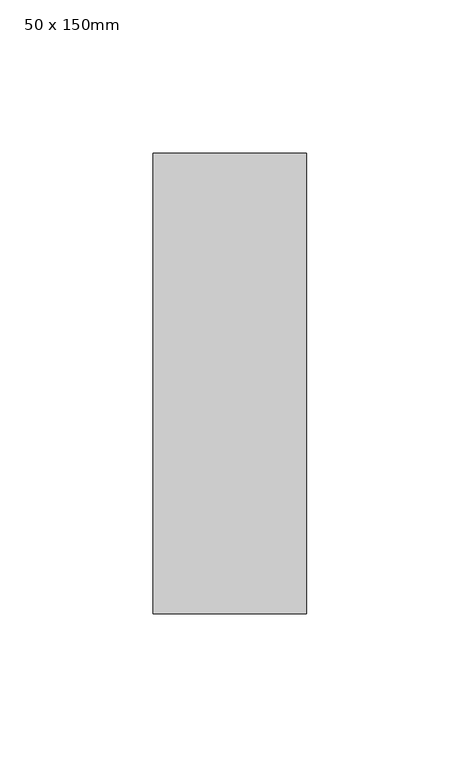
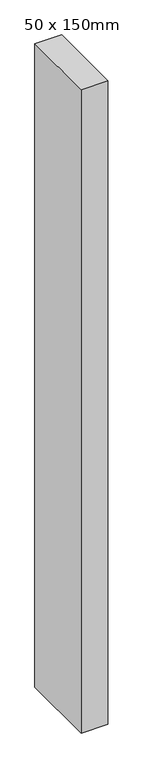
"""IFC4 building model written with IfcOpenShell, lengths in millimetres: member geometry, 矩形竖梃 : 50 x 150mm."""

import ifcopenshell
import ifcopenshell.guid

model = None  # the IFC model being written
_history = None  # IfcOwnerHistory: only IFC2X3 demands one
_inside = {}  # id of a spatial element -> (the spatial element, [elements in it])
_under = {}  # id of a project, library or spatial element -> (it, [spatial elements below it])
_declared = {}  # id of a project -> (the project, [libraries it declares])
_typed = {}  # id of a type object -> (the type object, [elements of that type])
_made_of = {}  # id of a material, layer set ... -> (it, [elements and type objects made of it])


def new_model(schema):
    """Start an empty IFC model of exactly this schema.

    Asked for "IFC4X3", IfcOpenShell would pick the latest addendum, in which some entities
    have other attributes; the version numbers below select the first issue.
    IFC2X3 requires an IfcOwnerHistory on every rooted entity: one is made here for all.
    """
    global model, _history
    if schema == "IFC4X3":
        model = ifcopenshell.file(schema_version=(4, 3, 0, 0))
    else:
        model = ifcopenshell.file(schema=schema)
    _inside.clear()
    _under.clear()
    _declared.clear()
    _typed.clear()
    _made_of.clear()
    _history = None
    if model.schema == "IFC2X3":
        org = make("IfcOrganization", Name="unknown")
        user = make(
            "IfcPersonAndOrganization",
            ThePerson=make("IfcPerson", FamilyName="unknown"),
            TheOrganization=org,
        )
        app = make(
            "IfcApplication",
            ApplicationDeveloper=org,
            Version="unknown",
            ApplicationFullName="unknown",
            ApplicationIdentifier="unknown",
        )
        _history = make(
            "IfcOwnerHistory",
            OwningUser=user,
            OwningApplication=app,
            ChangeAction="ADDED",
            CreationDate=0,
        )
    return model


def make(cls, **values):
    """One entity of the class cls with the attributes given. An attribute that is None is left unset."""
    return model.create_entity(
        cls, **{name: value for name, value in values.items() if value is not None}
    )


def rooted(cls, **values):
    """An entity with a GlobalId (a new one), such as an element, a storey or a relation."""
    return make(cls, GlobalId=ifcopenshell.guid.new(), OwnerHistory=_history, **values)


def si_unit(unit_type, name, prefix=None):
    """IfcSIUnit, for example si_unit("LENGTHUNIT", "METRE", prefix="MILLI")."""
    return make("IfcSIUnit", UnitType=unit_type, Prefix=prefix, Name=name)


def assignment(units):
    """IfcUnitAssignment: the units of a project."""
    return None if units is None else make("IfcUnitAssignment", Units=units)


def point(xyz):
    """IfcCartesianPoint."""
    return None if xyz is None else make("IfcCartesianPoint", Coordinates=xyz)


def direction(xyz):
    """IfcDirection."""
    return None if xyz is None else make("IfcDirection", DirectionRatios=xyz)


def frame(location, z_axis=None, x_axis=None):
    """IfcAxis2Placement3D, a coordinate frame: its origin and axes. An axis left out is left unset."""
    return make(
        "IfcAxis2Placement3D",
        Location=point(location),
        Axis=direction(z_axis),
        RefDirection=direction(x_axis),
    )


def origin():
    """The frame at (0, 0, 0) with its axes left unset."""
    return frame((0.0, 0.0, 0.0))


def place(relative_to, where):
    """IfcLocalPlacement: puts the frame where relative to a parent placement (None: the world)."""
    return make(
        "IfcLocalPlacement", PlacementRelTo=relative_to, RelativePlacement=where
    )


def context(
    kind, dimensions, precision=None, world=None, true_north=None, identifier=None
):
    """IfcGeometricRepresentationContext, for example the 3D "Model" context."""
    return make(
        "IfcGeometricRepresentationContext",
        ContextIdentifier=identifier,
        ContextType=kind,
        CoordinateSpaceDimension=dimensions,
        Precision=precision,
        WorldCoordinateSystem=world,
        TrueNorth=true_north,
    )


def project(units=None, contexts=None):
    """IfcProject with its units and contexts."""
    return rooted(
        "IfcProject",
        Name="project",
        RepresentationContexts=contexts,
        UnitsInContext=assignment(units),
    )


def spatial(cls, under=None, at=None, **own):
    """A site, building, storey or space (cls), placed at a placement, below another one or the project."""
    s = rooted(cls, ObjectPlacement=at, **own)
    if under is not None:
        _under.setdefault(under.id(), (under, []))[1].append(s)
    return s


def polyline(points):
    """IfcPolyline through the points."""
    return make("IfcPolyline", Points=[point(p) for p in points])


def outline(outer, holes=None, kind="AREA"):
    """IfcArbitraryClosedProfileDef: a profile drawn as a closed curve; with holes, ...WithVoids."""
    if holes is None:
        return make("IfcArbitraryClosedProfileDef", ProfileType=kind, OuterCurve=outer)
    return make(
        "IfcArbitraryProfileDefWithVoids",
        ProfileType=kind,
        OuterCurve=outer,
        InnerCurves=holes,
    )


def extrude(swept, where, along, depth):
    """IfcExtrudedAreaSolid: the profile swept, set in the frame where, extruded along a direction by depth."""
    return make(
        "IfcExtrudedAreaSolid",
        SweptArea=swept,
        Position=where,
        ExtrudedDirection=direction(along),
        Depth=depth,
    )


def shape(context_of_items, identifier, shape_type, items):
    """IfcShapeRepresentation: the items that make up one representation, for example the "Body"."""
    return make(
        "IfcShapeRepresentation",
        ContextOfItems=context_of_items,
        RepresentationIdentifier=identifier,
        RepresentationType=shape_type,
        Items=items,
    )


def source(mapping_origin, context_of_items, identifier, shape_type, items):
    """IfcRepresentationMap: a shape defined once, which mapped items show again and again."""
    return make(
        "IfcRepresentationMap",
        MappingOrigin=mapping_origin,
        MappedRepresentation=shape(context_of_items, identifier, shape_type, items),
    )


def transform(
    local_origin,
    x_axis=None,
    y_axis=None,
    z_axis=None,
    scale=None,
    scale2=None,
    scale3=None,
    uniform=True,
):
    """IfcCartesianTransformationOperator3D, or its non-uniform kind. x_axis, y_axis, z_axis: its Axis1, 2, 3."""
    if uniform:
        return make(
            "IfcCartesianTransformationOperator3D",
            Axis1=direction(x_axis),
            Axis2=direction(y_axis),
            LocalOrigin=point(local_origin),
            Scale=scale,
            Axis3=direction(z_axis),
        )
    return make(
        "IfcCartesianTransformationOperator3DnonUniform",
        Axis1=direction(x_axis),
        Axis2=direction(y_axis),
        LocalOrigin=point(local_origin),
        Scale=scale,
        Axis3=direction(z_axis),
        Scale2=scale2,
        Scale3=scale3,
    )


def mapped(mapping_source, mapping_target):
    """IfcMappedItem: shows the shape of a source again, moved by a transform."""
    return make(
        "IfcMappedItem", MappingSource=mapping_source, MappingTarget=mapping_target
    )


def made_of(thing, what):
    """Note that an element or type object is made of a material, layer set ...; save() writes the relation."""
    if what is not None:
        _made_of.setdefault(what.id(), (what, []))[1].append(thing)
    return thing


def element(
    cls,
    number,
    at=None,
    inside=None,
    cuts=None,
    type_object=None,
    material=None,
    context=None,
    identifier="Body",
    shape_type=None,
    held_by="IfcProductDefinitionShape",
    body=None,
    shapes=None,
    **own,
):
    """One element of the class cls, such as IfcWall. Its Tag is "e" and its number.

    at: its placement. inside: the storey or other place that contains it. cuts: it is an
    opening in that element (IfcRelVoidsElement). A single representation is given by context,
    identifier, shape_type and body (its items); several are given by shapes. held_by: the class
    of the entity that holds the representations. save() writes the other relations.
    """
    e = rooted(cls, Tag="e%d" % number, ObjectPlacement=at, **own)
    if body is not None:
        shapes = [shape(context, identifier, shape_type, body)]
    if shapes is not None:
        e.Representation = make(held_by, Representations=shapes)
    if inside is not None:
        _inside.setdefault(inside.id(), (inside, []))[1].append(e)
    if cuts is not None:
        rooted(
            "IfcRelVoidsElement", RelatingBuildingElement=cuts, RelatedOpeningElement=e
        )
    if type_object is not None:
        _typed.setdefault(type_object.id(), (type_object, []))[1].append(e)
    return made_of(e, material)


def aggregate(whole, parts):
    """IfcRelAggregates: a whole, such as a stair, and the parts it consists of."""
    return rooted("IfcRelAggregates", RelatingObject=whole, RelatedObjects=parts)


def save(model, path):
    """Write the relations noted so far, then the file.

    IfcRelAggregates (storeys below a building ...), IfcRelContainedInSpatialStructure (elements
    in a storey), IfcRelDefinesByType, IfcRelAssociatesMaterial and IfcRelDeclares: one each for
    every whole, place, type object, material and project.
    """
    for whole, parts in _under.values():
        aggregate(whole, parts)
    for where, things in _inside.values():
        rooted(
            "IfcRelContainedInSpatialStructure",
            RelatedElements=things,
            RelatingStructure=where,
        )
    for kind, things in _typed.values():
        rooted("IfcRelDefinesByType", RelatedObjects=things, RelatingType=kind)
    for what, things in _made_of.values():
        rooted("IfcRelAssociatesMaterial", RelatedObjects=things, RelatingMaterial=what)
    for by, libraries in _declared.values():
        rooted("IfcRelDeclares", RelatingContext=by, RelatedDefinitions=libraries)
    model.write(path)


def member_50_x_150mm_886af683(model_context):
    return source(origin(), model_context, "Body", "SweptSolid", [
        extrude(outline(polyline([(0.0, 75.0), (0.0, -75.0), (-50.0, -75.0), (-50.0, 75.0), (0.0, 75.0)])), frame((0.0, 0.0, -1276.0), z_axis=(0.0, 0.0, 1.0), x_axis=(1.0, 0.0, 0.0)), (0.0, 0.0, 1.0), 1276.0),
    ])


if __name__ == "__main__":
    model = new_model("IFC4")
    model_context = context("Model", 3, world=origin())
    ifc_project = project(units=[si_unit("LENGTHUNIT", "METRE", prefix="MILLI")], contexts=[model_context])
    site = spatial("IfcSite", under=ifc_project)
    building = spatial("IfcBuilding", under=site)
    placement = place(None, origin())
    member_50_x_150mm_shape = member_50_x_150mm_886af683(model_context)
    element("IfcMember", 1, ObjectType="矩形竖梃 : 50 x 150mm", at=placement, inside=building, context=model_context, shape_type="MappedRepresentation", body=[
        mapped(member_50_x_150mm_shape, transform((0.0, 0.0, 0.0), x_axis=(1.0, 0.0, 0.0), y_axis=(0.0, 1.0, 0.0), z_axis=(0.0, 0.0, 1.0))),
    ])
    save(model, "model.ifc")
